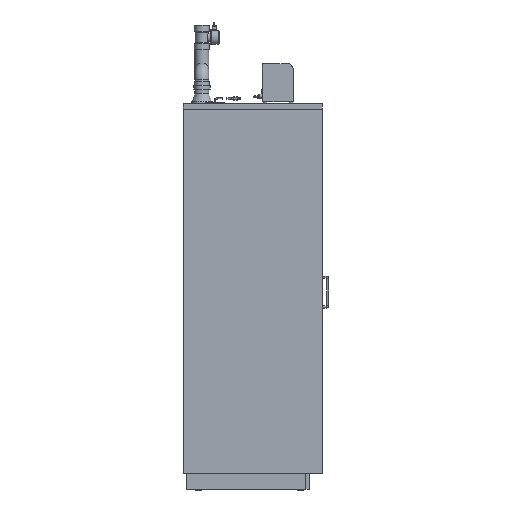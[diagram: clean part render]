
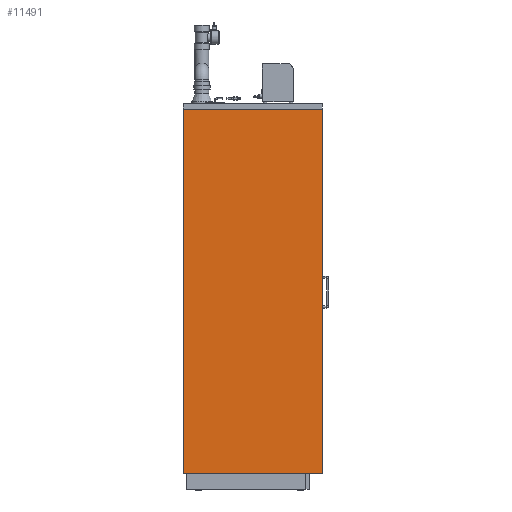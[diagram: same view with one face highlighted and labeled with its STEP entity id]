
A CAD part, left-side view. The second image highlights one B-rep face of the part: STEP entity #11491.
In plain terms, the highlighted planar face has unit normal (-1, 0, 0).
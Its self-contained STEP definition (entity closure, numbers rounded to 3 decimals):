
#399=LINE('',#15861,#1164);
#426=LINE('',#15916,#1191);
#602=LINE('',#16375,#1367);
#605=LINE('',#16381,#1370);
#617=LINE('',#16405,#1382);
#618=LINE('',#16407,#1383);
#619=LINE('',#16408,#1384);
#620=LINE('',#16410,#1385);
#1164=VECTOR('',#13448,1000.);
#1191=VECTOR('',#13489,1000.);
#1367=VECTOR('',#13987,1000.);
#1370=VECTOR('',#13992,1000.);
#1382=VECTOR('',#14016,1000.);
#1383=VECTOR('',#14017,1000.);
#1384=VECTOR('',#14018,1000.);
#1385=VECTOR('',#14019,1000.);
#1834=PLANE('',#12174);
#3289=ORIENTED_EDGE('',*,*,#4775,.F.);
#3290=ORIENTED_EDGE('',*,*,#4533,.F.);
#3291=ORIENTED_EDGE('',*,*,#4760,.F.);
#3292=ORIENTED_EDGE('',*,*,#4776,.F.);
#3293=ORIENTED_EDGE('',*,*,#4763,.F.);
#3294=ORIENTED_EDGE('',*,*,#4506,.T.);
#3295=ORIENTED_EDGE('',*,*,#4777,.T.);
#3296=ORIENTED_EDGE('',*,*,#4778,.F.);
#4506=EDGE_CURVE('',#5439,#5440,#399,.T.);
#4533=EDGE_CURVE('',#5460,#5461,#426,.T.);
#4760=EDGE_CURVE('',#5581,#5460,#602,.T.);
#4763=EDGE_CURVE('',#5439,#5584,#605,.T.);
#4775=EDGE_CURVE('',#5461,#5590,#617,.T.);
#4776=EDGE_CURVE('',#5584,#5581,#618,.T.);
#4777=EDGE_CURVE('',#5440,#5591,#619,.T.);
#4778=EDGE_CURVE('',#5590,#5591,#620,.T.);
#5439=VERTEX_POINT('',#15862);
#5440=VERTEX_POINT('',#15863);
#5460=VERTEX_POINT('',#15917);
#5461=VERTEX_POINT('',#15918);
#5581=VERTEX_POINT('',#16374);
#5584=VERTEX_POINT('',#16382);
#5590=VERTEX_POINT('',#16406);
#5591=VERTEX_POINT('',#16409);
#6474=EDGE_LOOP('',(#3289,#3290,#3291,#3292,#3293,#3294,#3295,#3296));
#7181=FACE_BOUND('',#6474,.T.);
#11491=ADVANCED_FACE('',(#7181),#1834,.F.);
#12174=AXIS2_PLACEMENT_3D('',#16404,#14014,#14015);
#13448=DIRECTION('',(0.,1.,0.));
#13489=DIRECTION('',(0.,1.,0.));
#13987=DIRECTION('',(0.,0.,-1.));
#13992=DIRECTION('',(0.,0.,1.));
#14014=DIRECTION('',(1.,0.,0.));
#14015=DIRECTION('',(0.,0.,-1.));
#14016=DIRECTION('',(0.,0.,1.));
#14017=DIRECTION('',(0.,-1.,0.));
#14018=DIRECTION('',(0.,0.,1.));
#14019=DIRECTION('',(0.,-1.,0.));
#15861=CARTESIAN_POINT('',(0.,0.,2043.5));
#15862=CARTESIAN_POINT('',(0.,699.,2043.5));
#15863=CARTESIAN_POINT('',(0.,718.,2043.5));
#15916=CARTESIAN_POINT('',(0.,0.,89.));
#15917=CARTESIAN_POINT('',(0.,0.,89.));
#15918=CARTESIAN_POINT('',(0.,747.,89.));
#16374=CARTESIAN_POINT('',(0.,0.,2045.));
#16375=CARTESIAN_POINT('',(0.,0.,2045.));
#16381=CARTESIAN_POINT('',(0.,699.,2043.5));
#16382=CARTESIAN_POINT('',(0.,699.,2045.));
#16404=CARTESIAN_POINT('',(0.,0.,89.));
#16405=CARTESIAN_POINT('',(0.,747.,89.));
#16406=CARTESIAN_POINT('',(0.,747.,2045.));
#16407=CARTESIAN_POINT('',(0.,612.,2045.));
#16408=CARTESIAN_POINT('',(0.,718.,89.));
#16409=CARTESIAN_POINT('',(0.,718.,2045.));
#16410=CARTESIAN_POINT('',(0.,612.,2045.));
